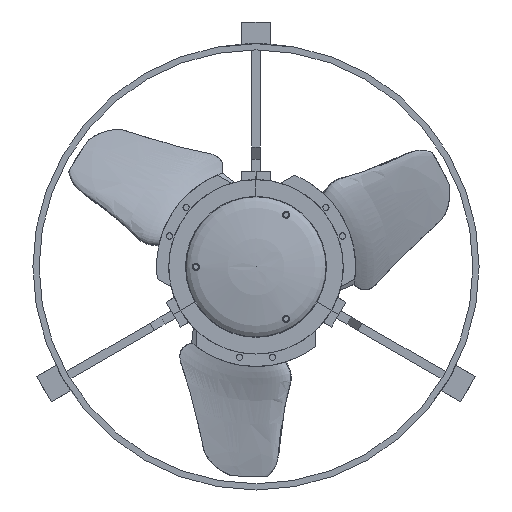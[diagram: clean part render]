
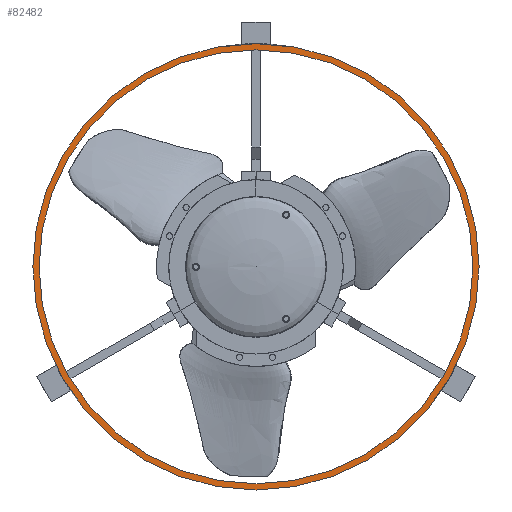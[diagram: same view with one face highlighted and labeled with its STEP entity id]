
A CAD part, left-side view. The second image highlights one B-rep face of the part: STEP entity #82482.
In plain terms, the highlighted planar face has unit normal (-1, 0, 0).
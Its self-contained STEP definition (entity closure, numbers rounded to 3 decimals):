
#82038 = EDGE_CURVE('',#82039,#82039,#82041,.T.);
#82039 = VERTEX_POINT('',#82040);
#82040 = CARTESIAN_POINT('',(-26.5,108.,0.));
#82041 = SURFACE_CURVE('',#82042,(#82047,#82059),.PCURVE_S1.);
#82042 = CIRCLE('',#82043,108.);
#82043 = AXIS2_PLACEMENT_3D('',#82044,#82045,#82046);
#82044 = CARTESIAN_POINT('',(-26.5,0.,0.));
#82045 = DIRECTION('',(1.,0.,0.));
#82046 = DIRECTION('',(0.,1.,0.));
#82047 = PCURVE('',#82048,#82053);
#82048 = CYLINDRICAL_SURFACE('',#82049,108.);
#82049 = AXIS2_PLACEMENT_3D('',#82050,#82051,#82052);
#82050 = CARTESIAN_POINT('',(-26.5,0.,0.));
#82051 = DIRECTION('',(-1.,-0.,-0.));
#82052 = DIRECTION('',(0.,1.,0.));
#82053 = DEFINITIONAL_REPRESENTATION('',(#82054),#82058);
#82054 = LINE('',#82055,#82056);
#82055 = CARTESIAN_POINT('',(-0.,0.));
#82056 = VECTOR('',#82057,1.);
#82057 = DIRECTION('',(-1.,0.));
#82058 = ( GEOMETRIC_REPRESENTATION_CONTEXT(2) 
PARAMETRIC_REPRESENTATION_CONTEXT() REPRESENTATION_CONTEXT('2D SPACE',''
  ) );
#82059 = PCURVE('',#82060,#82065);
#82060 = PLANE('',#82061);
#82061 = AXIS2_PLACEMENT_3D('',#82062,#82063,#82064);
#82062 = CARTESIAN_POINT('',(-26.5,0.,0.
    ));
#82063 = DIRECTION('',(1.,0.,0.));
#82064 = DIRECTION('',(-0.,0.,1.));
#82065 = DEFINITIONAL_REPRESENTATION('',(#82066),#82070);
#82066 = CIRCLE('',#82067,108.);
#82067 = AXIS2_PLACEMENT_2D('',#82068,#82069);
#82068 = CARTESIAN_POINT('',(0.,0.));
#82069 = DIRECTION('',(0.,-1.));
#82070 = ( GEOMETRIC_REPRESENTATION_CONTEXT(2) 
PARAMETRIC_REPRESENTATION_CONTEXT() REPRESENTATION_CONTEXT('2D SPACE',''
  ) );
#82482 = ADVANCED_FACE('',(#82483,#82486),#82060,.F.);
#82483 = FACE_BOUND('',#82484,.F.);
#82484 = EDGE_LOOP('',(#82485));
#82485 = ORIENTED_EDGE('',*,*,#82038,.T.);
#82486 = FACE_BOUND('',#82487,.F.);
#82487 = EDGE_LOOP('',(#82488));
#82488 = ORIENTED_EDGE('',*,*,#82489,.F.);
#82489 = EDGE_CURVE('',#82490,#82490,#82492,.T.);
#82490 = VERTEX_POINT('',#82491);
#82491 = CARTESIAN_POINT('',(-26.5,105.,0.));
#82492 = SURFACE_CURVE('',#82493,(#82498,#82505),.PCURVE_S1.);
#82493 = CIRCLE('',#82494,105.);
#82494 = AXIS2_PLACEMENT_3D('',#82495,#82496,#82497);
#82495 = CARTESIAN_POINT('',(-26.5,0.,0.
    ));
#82496 = DIRECTION('',(1.,0.,0.));
#82497 = DIRECTION('',(0.,1.,0.));
#82498 = PCURVE('',#82060,#82499);
#82499 = DEFINITIONAL_REPRESENTATION('',(#82500),#82504);
#82500 = CIRCLE('',#82501,105.);
#82501 = AXIS2_PLACEMENT_2D('',#82502,#82503);
#82502 = CARTESIAN_POINT('',(0.,0.));
#82503 = DIRECTION('',(0.,-1.));
#82504 = ( GEOMETRIC_REPRESENTATION_CONTEXT(2) 
PARAMETRIC_REPRESENTATION_CONTEXT() REPRESENTATION_CONTEXT('2D SPACE',''
  ) );
#82505 = PCURVE('',#82506,#82511);
#82506 = CYLINDRICAL_SURFACE('',#82507,105.);
#82507 = AXIS2_PLACEMENT_3D('',#82508,#82509,#82510);
#82508 = CARTESIAN_POINT('',(-26.5,0.,0.
    ));
#82509 = DIRECTION('',(-1.,-0.,-0.));
#82510 = DIRECTION('',(0.,1.,0.));
#82511 = DEFINITIONAL_REPRESENTATION('',(#82512),#82516);
#82512 = LINE('',#82513,#82514);
#82513 = CARTESIAN_POINT('',(-0.,0.));
#82514 = VECTOR('',#82515,1.);
#82515 = DIRECTION('',(-1.,0.));
#82516 = ( GEOMETRIC_REPRESENTATION_CONTEXT(2) 
PARAMETRIC_REPRESENTATION_CONTEXT() REPRESENTATION_CONTEXT('2D SPACE',''
  ) );
